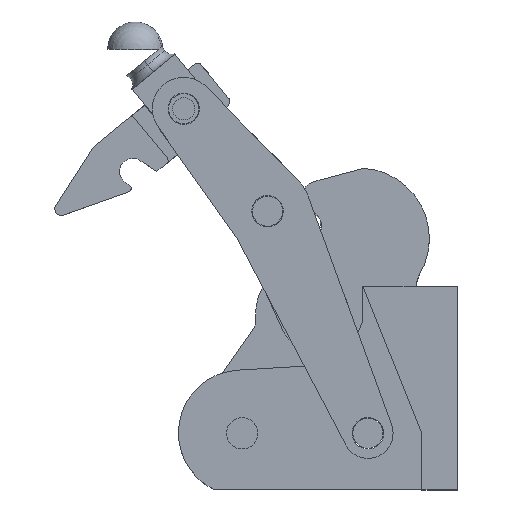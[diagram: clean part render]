
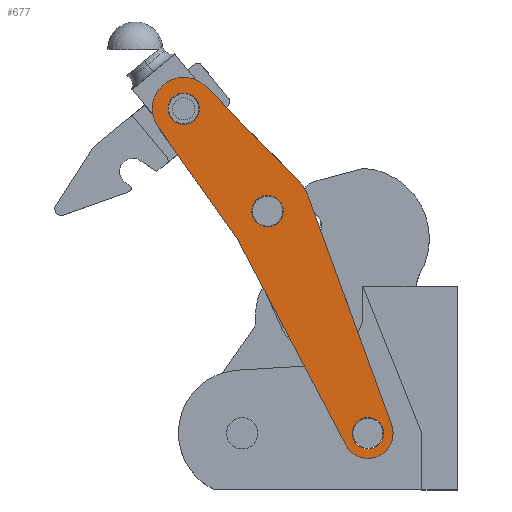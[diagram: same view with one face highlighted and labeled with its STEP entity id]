
A CAD part, top view. The second image highlights one B-rep face of the part: STEP entity #677.
In plain terms, the highlighted planar face has unit normal (0, 0, 1).
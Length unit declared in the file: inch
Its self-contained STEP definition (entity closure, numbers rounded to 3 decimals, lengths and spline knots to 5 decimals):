
#677 = ADVANCED_FACE( '', ( #952, #953, #954, #955 ), #956, .F. );
#952 = FACE_OUTER_BOUND( '', #1479, .T. );
#953 = FACE_BOUND( '', #1480, .T. );
#954 = FACE_BOUND( '', #1481, .T. );
#955 = FACE_BOUND( '', #1482, .T. );
#956 = PLANE( '', #1483 );
#1479 = EDGE_LOOP( '', ( #2386, #2387, #2388, #2389, #2390, #2391, #2392, #2393, #2394 ) );
#1480 = EDGE_LOOP( '', ( #2395, #2396, #2397 ) );
#1481 = EDGE_LOOP( '', ( #2398, #2399, #2400 ) );
#1482 = EDGE_LOOP( '', ( #2401, #2402, #2403 ) );
#1483 = AXIS2_PLACEMENT_3D( '', #2404, #2405, #2406 );
#2386 = ORIENTED_EDGE( '', *, *, #4296, .F. );
#2387 = ORIENTED_EDGE( '', *, *, #4291, .F. );
#2388 = ORIENTED_EDGE( '', *, *, #4293, .F. );
#2389 = ORIENTED_EDGE( '', *, *, #4220, .F. );
#2390 = ORIENTED_EDGE( '', *, *, #4297, .F. );
#2391 = ORIENTED_EDGE( '', *, *, #4298, .F. );
#2392 = ORIENTED_EDGE( '', *, *, #4285, .F. );
#2393 = ORIENTED_EDGE( '', *, *, #4226, .F. );
#2394 = ORIENTED_EDGE( '', *, *, #4250, .F. );
#2395 = ORIENTED_EDGE( '', *, *, #4251, .T. );
#2396 = ORIENTED_EDGE( '', *, *, #4224, .T. );
#2397 = ORIENTED_EDGE( '', *, *, #4252, .T. );
#2398 = ORIENTED_EDGE( '', *, *, #4299, .T. );
#2399 = ORIENTED_EDGE( '', *, *, #4200, .T. );
#2400 = ORIENTED_EDGE( '', *, *, #4300, .T. );
#2401 = ORIENTED_EDGE( '', *, *, #4301, .T. );
#2402 = ORIENTED_EDGE( '', *, *, #4192, .T. );
#2403 = ORIENTED_EDGE( '', *, *, #4302, .T. );
#2404 = CARTESIAN_POINT( '', ( -1.41929, 0.9, 0.75 ) );
#2405 = DIRECTION( '', ( 0., 0., -1. ) );
#2406 = DIRECTION( '', ( 0., -1., 0. ) );
#4192 = EDGE_CURVE( '', #4860, #4864, #4866, .T. );
#4200 = EDGE_CURVE( '', #4876, #4880, #4882, .T. );
#4220 = EDGE_CURVE( '', #4920, #4916, #4922, .T. );
#4224 = EDGE_CURVE( '', #4924, #4928, #4930, .T. );
#4226 = EDGE_CURVE( '', #4931, #4934, #4935, .T. );
#4250 = EDGE_CURVE( '', #4971, #4931, #4973, .T. );
#4251 = EDGE_CURVE( '', #4974, #4924, #4975, .T. );
#4252 = EDGE_CURVE( '', #4928, #4974, #4976, .T. );
#4285 = EDGE_CURVE( '', #4934, #5030, #5031, .T. );
#4291 = EDGE_CURVE( '', #5037, #5039, #5040, .T. );
#4293 = EDGE_CURVE( '', #4916, #5037, #5042, .T. );
#4296 = EDGE_CURVE( '', #5039, #4971, #5046, .T. );
#4297 = EDGE_CURVE( '', #5047, #4920, #5048, .T. );
#4298 = EDGE_CURVE( '', #5030, #5047, #5049, .T. );
#4299 = EDGE_CURVE( '', #5050, #4876, #5051, .T. );
#4300 = EDGE_CURVE( '', #4880, #5050, #5052, .T. );
#4301 = EDGE_CURVE( '', #5053, #4860, #5054, .T. );
#4302 = EDGE_CURVE( '', #4864, #5053, #5055, .T. );
#4860 = VERTEX_POINT( '', #5986 );
#4864 = VERTEX_POINT( '', #5991 );
#4866 = CIRCLE( '', #5994, 0.25 );
#4876 = VERTEX_POINT( '', #6006 );
#4880 = VERTEX_POINT( '', #6011 );
#4882 = CIRCLE( '', #6014, 0.25 );
#4916 = VERTEX_POINT( '', #6056 );
#4920 = VERTEX_POINT( '', #6061 );
#4922 = CIRCLE( '', #6064, 0.4 );
#4924 = VERTEX_POINT( '', #6066 );
#4928 = VERTEX_POINT( '', #6071 );
#4930 = CIRCLE( '', #6074, 0.25 );
#4931 = VERTEX_POINT( '', #6075 );
#4934 = VERTEX_POINT( '', #6079 );
#4935 = CIRCLE( '', #6080, 0.5 );
#4971 = VERTEX_POINT( '', #6133 );
#4973 = CIRCLE( '', #6136, 0.5 );
#4974 = VERTEX_POINT( '', #6137 );
#4975 = CIRCLE( '', #6138, 0.25 );
#4976 = CIRCLE( '', #6139, 0.25 );
#5030 = VERTEX_POINT( '', #6216 );
#5031 = LINE( '', #6217, #6218 );
#5037 = VERTEX_POINT( '', #6228 );
#5039 = VERTEX_POINT( '', #6231 );
#5040 = LINE( '', #6232, #6233 );
#5042 = CIRCLE( '', #6236, 0.4 );
#5046 = LINE( '', #6240, #6241 );
#5047 = VERTEX_POINT( '', #6242 );
#5048 = LINE( '', #6243, #6244 );
#5049 = CIRCLE( '', #6245, 0.69 );
#5050 = VERTEX_POINT( '', #6246 );
#5051 = CIRCLE( '', #6247, 0.25 );
#5052 = CIRCLE( '', #6248, 0.25 );
#5053 = VERTEX_POINT( '', #6249 );
#5054 = CIRCLE( '', #6250, 0.25 );
#5055 = CIRCLE( '', #6251, 0.25 );
#5986 = CARTESIAN_POINT( '', ( -3.11869, 4.65868, 0.75 ) );
#5991 = CARTESIAN_POINT( '', ( -2.91271, 4.20308, 0.75 ) );
#5994 = AXIS2_PLACEMENT_3D( '', #7715, #7716, #7717 );
#6006 = CARTESIAN_POINT( '', ( -1.52229, 1.1278, 0.75 ) );
#6011 = CARTESIAN_POINT( '', ( -1.3163, 0.6722, 0.75 ) );
#6014 = AXIS2_PLACEMENT_3D( '', #7731, #7732, #7733 );
#6056 = CARTESIAN_POINT( '', ( -1.2545, 0.53552, 0.75 ) );
#6061 = CARTESIAN_POINT( '', ( -1.04352, 1.03709, 0.75 ) );
#6064 = AXIS2_PLACEMENT_3D( '', #7771, #7772, #7773 );
#6066 = CARTESIAN_POINT( '', ( -4.45168, 6.28762, 0.75 ) );
#6071 = CARTESIAN_POINT( '', ( -4.24569, 5.83203, 0.75 ) );
#6074 = AXIS2_PLACEMENT_3D( '', #7779, #7780, #7781 );
#6075 = CARTESIAN_POINT( '', ( -4.55467, 6.51542, 0.75 ) );
#6079 = CARTESIAN_POINT( '', ( -3.99218, 6.4104, 0.75 ) );
#6080 = AXIS2_PLACEMENT_3D( '', #7783, #7784, #7785 );
#6133 = CARTESIAN_POINT( '', ( -4.75664, 5.77074, 0.75 ) );
#6136 = AXIS2_PLACEMENT_3D( '', #7819, #7820, #7821 );
#6137 = CARTESIAN_POINT( '', ( -4.57648, 5.95683, 0.75 ) );
#6138 = AXIS2_PLACEMENT_3D( '', #7822, #7823, #7824 );
#6139 = AXIS2_PLACEMENT_3D( '', #7825, #7826, #7827 );
#6216 = CARTESIAN_POINT( '', ( -2.52579, 4.91923, 0.75 ) );
#6217 = CARTESIAN_POINT( '', ( -3.99218, 6.4104, 0.75 ) );
#6218 = VECTOR( '', #7878, 1. );
#6228 = CARTESIAN_POINT( '', ( -1.77332, 0.71382, 0.75 ) );
#6231 = CARTESIAN_POINT( '', ( -3.5003, 3.99777, 0.75 ) );
#6232 = CARTESIAN_POINT( '', ( -1.77332, 0.71382, 0.75 ) );
#6233 = VECTOR( '', #7884, 1. );
#6236 = AXIS2_PLACEMENT_3D( '', #7886, #7887, #7888 );
#6240 = CARTESIAN_POINT( '', ( -3.5003, 3.99777, 0.75 ) );
#6241 = VECTOR( '', #7895, 1. );
#6242 = CARTESIAN_POINT( '', ( -2.36955, 4.67191, 0.75 ) );
#6243 = CARTESIAN_POINT( '', ( -2.36955, 4.67191, 0.75 ) );
#6244 = VECTOR( '', #7896, 1. );
#6245 = AXIS2_PLACEMENT_3D( '', #7897, #7898, #7899 );
#6246 = CARTESIAN_POINT( '', ( -1.64709, 0.79701, 0.75 ) );
#6247 = AXIS2_PLACEMENT_3D( '', #7900, #7901, #7902 );
#6248 = AXIS2_PLACEMENT_3D( '', #7903, #7904, #7905 );
#6249 = CARTESIAN_POINT( '', ( -3.2435, 4.32788, 0.75 ) );
#6250 = AXIS2_PLACEMENT_3D( '', #7906, #7907, #7908 );
#6251 = AXIS2_PLACEMENT_3D( '', #7909, #7910, #7911 );
#7715 = CARTESIAN_POINT( '', ( -3.0157, 4.43088, 0.75 ) );
#7716 = DIRECTION( '', ( 0., 0., -1. ) );
#7717 = DIRECTION( '', ( -0.911, -0.412, 0. ) );
#7731 = CARTESIAN_POINT( '', ( -1.41929, 0.9, 0.75 ) );
#7732 = DIRECTION( '', ( 0., 0., -1. ) );
#7733 = DIRECTION( '', ( -0.911, -0.412, 0. ) );
#7771 = CARTESIAN_POINT( '', ( -1.41929, 0.9, 0.75 ) );
#7772 = DIRECTION( '', ( 0., 0., -1. ) );
#7773 = DIRECTION( '', ( 0.939, 0.343, 0. ) );
#7779 = CARTESIAN_POINT( '', ( -4.34868, 6.05982, 0.75 ) );
#7780 = DIRECTION( '', ( 0., 0., -1. ) );
#7781 = DIRECTION( '', ( -0.911, -0.412, 0. ) );
#7783 = CARTESIAN_POINT( '', ( -4.34868, 6.05982, 0.75 ) );
#7784 = DIRECTION( '', ( 0., 0., -1. ) );
#7785 = DIRECTION( '', ( -0.816, -0.578, 0. ) );
#7819 = CARTESIAN_POINT( '', ( -4.34868, 6.05982, 0.75 ) );
#7820 = DIRECTION( '', ( 0., 0., -1. ) );
#7821 = DIRECTION( '', ( -0.816, -0.578, 0. ) );
#7822 = CARTESIAN_POINT( '', ( -4.34868, 6.05982, 0.75 ) );
#7823 = DIRECTION( '', ( 0., 0., -1. ) );
#7824 = DIRECTION( '', ( -0.911, -0.412, 0. ) );
#7825 = CARTESIAN_POINT( '', ( -4.34868, 6.05982, 0.75 ) );
#7826 = DIRECTION( '', ( 0., 0., -1. ) );
#7827 = DIRECTION( '', ( -0.911, -0.412, 0. ) );
#7878 = DIRECTION( '', ( 0.701, -0.713, 0. ) );
#7884 = DIRECTION( '', ( -0.465, 0.885, 0. ) );
#7886 = CARTESIAN_POINT( '', ( -1.41929, 0.9, 0.75 ) );
#7887 = DIRECTION( '', ( 0., 0., -1. ) );
#7888 = DIRECTION( '', ( 0.939, 0.343, 0. ) );
#7895 = DIRECTION( '', ( -0.578, 0.816, 0. ) );
#7896 = DIRECTION( '', ( 0.343, -0.939, 0. ) );
#7897 = CARTESIAN_POINT( '', ( -3.01776, 4.43543, 0.75 ) );
#7898 = DIRECTION( '', ( 0., 0., -1. ) );
#7899 = DIRECTION( '', ( 0.713, 0.701, 0. ) );
#7900 = CARTESIAN_POINT( '', ( -1.41929, 0.9, 0.75 ) );
#7901 = DIRECTION( '', ( 0., 0., -1. ) );
#7902 = DIRECTION( '', ( -0.911, -0.412, 0. ) );
#7903 = CARTESIAN_POINT( '', ( -1.41929, 0.9, 0.75 ) );
#7904 = DIRECTION( '', ( 0., 0., -1. ) );
#7905 = DIRECTION( '', ( -0.911, -0.412, 0. ) );
#7906 = CARTESIAN_POINT( '', ( -3.0157, 4.43088, 0.75 ) );
#7907 = DIRECTION( '', ( 0., 0., -1. ) );
#7908 = DIRECTION( '', ( -0.911, -0.412, 0. ) );
#7909 = CARTESIAN_POINT( '', ( -3.0157, 4.43088, 0.75 ) );
#7910 = DIRECTION( '', ( 0., 0., -1. ) );
#7911 = DIRECTION( '', ( -0.911, -0.412, 0. ) );
